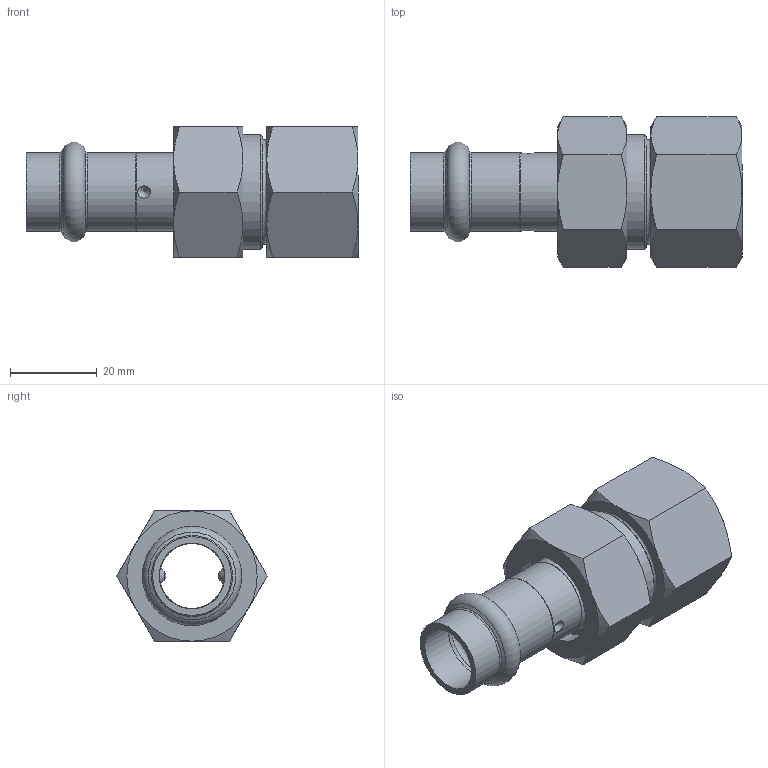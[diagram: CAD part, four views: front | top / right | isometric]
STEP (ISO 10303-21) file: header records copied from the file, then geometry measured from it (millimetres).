
FILE_DESCRIPTION((''),'2;1');
FILE_NAME('G:\Nirosan-Schmiedefeld\Technics\CAD\Bauteile VA\015\69330GMVA1534(5).stp','2011-09-20T14:00:25',('herberg'),(''),'Autodesk Inventor 2009','Autodesk Inventor 2009','');
FILE_SCHEMA(('AUTOMOTIVE_DESIGN { 1 0 10303 214 1 1 1 1 }'));
Length unit declared in the file: millimetre
Products named in the file (7): 69330GMVA1534(5); 69359m1534(3); HM_692431815(0); R1834(0); SM1834(2); FD_2417_EPDM(0); 69370G3434(1)
Assembly tree (6 placements, depth 3):
  69330GMVA1534(5)
    69359m1534(3)
      HM_692431815(0)
      R1834(0)
      SM1834(2)
      FD_2417_EPDM(0)
    69370G3434(1)
Bounding box: 76.5 x 34.64 x 30 mm (x, y, z)
Volume: 20080.7 mm3; surface area: 16069.8 mm2
Topology: 5 solids, 5 shells, 90 faces, 190 edges, 114 vertices
Faces by surface type: cone 37, plane 25, cylinder 12, bspline 12, sphere 2, torus 2
Full cylindrical faces by diameter (mm): 15 x2, 15.15 x2, 17 x1, 18 x2, 18.15 x2, 23 x1, 24 x1, 26.441 x1
Entity records: 2827 total; most frequent: CARTESIAN_POINT 1054, DIRECTION 340, ORIENTED_EDGE 282, AXIS2_PLACEMENT_3D 164, EDGE_LOOP 142, EDGE_CURVE 141, VERTEX_POINT 103, FACE_OUTER_BOUND 90
